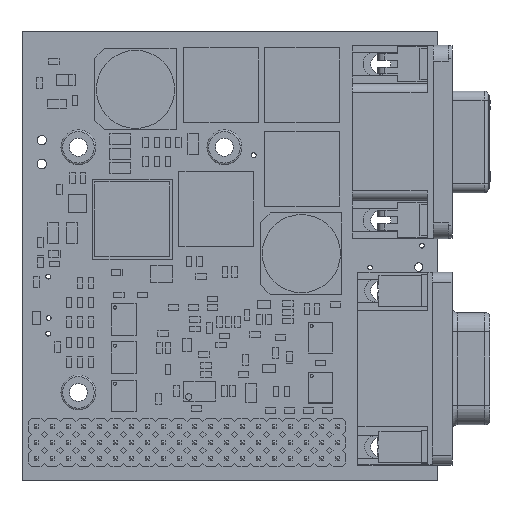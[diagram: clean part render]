
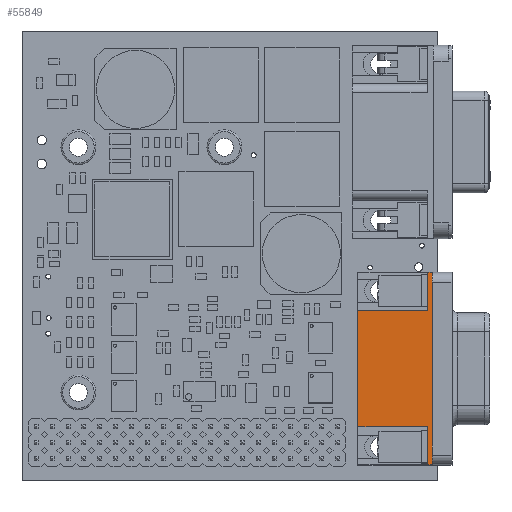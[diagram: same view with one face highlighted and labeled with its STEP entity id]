
A CAD part, top view. The second image highlights one B-rep face of the part: STEP entity #55849.
In plain terms, the highlighted planar face has unit normal (0, 0, 1) as drawn and (0, 1, 0) by its records, which use the part's own axes.
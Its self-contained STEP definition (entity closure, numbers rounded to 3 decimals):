
#11550=VERTEX_POINT('',#77032);
#11551=VERTEX_POINT('',#77034);
#11585=VERTEX_POINT('',#77114);
#11586=VERTEX_POINT('',#77116);
#11590=VERTEX_POINT('',#77134);
#11591=VERTEX_POINT('',#77135);
#11592=VERTEX_POINT('',#77137);
#11593=VERTEX_POINT('',#77140);
#16075=VECTOR('',#64218,1.);
#16102=VECTOR('',#64281,1.);
#16108=VECTOR('',#64297,1.);
#16109=VECTOR('',#64299,1.);
#16110=VECTOR('',#64300,1.);
#16111=VECTOR('',#64301,1.);
#16112=VECTOR('',#64302,1.);
#16113=VECTOR('',#64303,1.);
#22463=LINE('',#77033,#16075);
#22490=LINE('',#77115,#16102);
#22496=LINE('',#77131,#16108);
#22497=LINE('',#77133,#16109);
#22498=LINE('',#77136,#16110);
#22499=LINE('',#77138,#16111);
#22500=LINE('',#77139,#16112);
#22501=LINE('',#77141,#16113);
#29083=EDGE_CURVE('',#11551,#11550,#22463,.T.);
#29124=EDGE_CURVE('',#11585,#11586,#22490,.T.);
#29132=EDGE_CURVE('',#11550,#11586,#22496,.T.);
#29133=EDGE_CURVE('',#11590,#11591,#22497,.T.);
#29134=EDGE_CURVE('',#11590,#11592,#22498,.T.);
#29135=EDGE_CURVE('',#11551,#11592,#22499,.T.);
#29136=EDGE_CURVE('',#11585,#11593,#22500,.T.);
#29137=EDGE_CURVE('',#11591,#11593,#22501,.T.);
#36637=ORIENTED_EDGE('',*,*,#29133,.F.);
#36638=ORIENTED_EDGE('',*,*,#29134,.T.);
#36639=ORIENTED_EDGE('',*,*,#29135,.F.);
#36640=ORIENTED_EDGE('',*,*,#29083,.T.);
#36641=ORIENTED_EDGE('',*,*,#29132,.T.);
#36642=ORIENTED_EDGE('',*,*,#29124,.F.);
#36643=ORIENTED_EDGE('',*,*,#29136,.T.);
#36644=ORIENTED_EDGE('',*,*,#29137,.F.);
#49708=EDGE_LOOP('',(#36637,#36638,#36639,#36640,#36641,#36642,#36643,#36644));
#52897=FACE_BOUND('',#49708,.T.);
#55849=ADVANCED_FACE('',(#52897),#91263,.T.);
#58915=AXIS2_PLACEMENT_3D('',#77132,#64298,$);
#64218=DIRECTION('',(0.,0.,1.));
#64281=DIRECTION('',(0.,0.,1.));
#64297=DIRECTION('',(1.,0.,0.));
#64298=DIRECTION('',(0.,1.,0.));
#64299=DIRECTION('',(1.,0.,0.));
#64300=DIRECTION('',(0.,0.,1.));
#64301=DIRECTION('',(1.,0.,0.));
#64302=DIRECTION('',(-1.,0.,0.));
#64303=DIRECTION('',(0.,0.,1.));
#77032=CARTESIAN_POINT('',(-15.405,4.55,-9.14));
#77033=CARTESIAN_POINT('',(-15.405,4.55,-9.9));
#77034=CARTESIAN_POINT('',(-15.405,4.55,-9.9));
#77114=CARTESIAN_POINT('',(15.405,4.55,-9.9));
#77115=CARTESIAN_POINT('',(15.405,4.55,-9.9));
#77116=CARTESIAN_POINT('',(15.405,4.55,-9.14));
#77131=CARTESIAN_POINT('',(-15.405,4.55,-9.14));
#77132=CARTESIAN_POINT('',(-15.405,4.55,-21.06));
#77133=CARTESIAN_POINT('',(-9.3,4.55,-21.06));
#77134=CARTESIAN_POINT('',(-9.3,4.55,-21.06));
#77135=CARTESIAN_POINT('',(9.3,4.55,-21.06));
#77136=CARTESIAN_POINT('',(-9.3,4.55,-21.06));
#77137=CARTESIAN_POINT('',(-9.3,4.55,-9.9));
#77138=CARTESIAN_POINT('',(-15.405,4.55,-9.9));
#77139=CARTESIAN_POINT('',(15.405,4.55,-9.9));
#77140=CARTESIAN_POINT('',(9.3,4.55,-9.9));
#77141=CARTESIAN_POINT('',(9.3,4.55,-21.06));
#91263=PLANE('',#58915);
